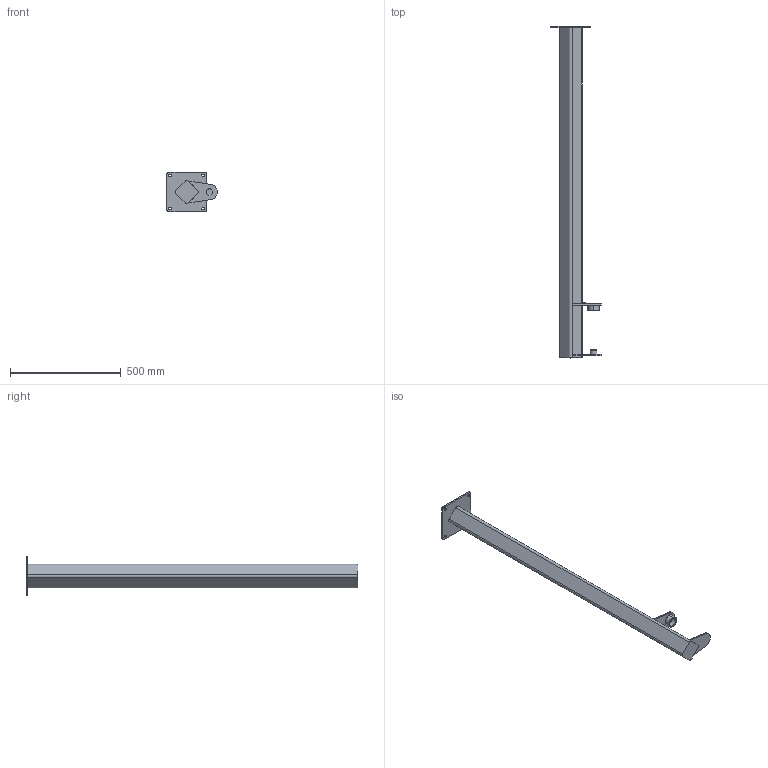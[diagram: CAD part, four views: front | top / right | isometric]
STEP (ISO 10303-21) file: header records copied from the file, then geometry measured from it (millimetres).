
FILE_DESCRIPTION((''),'2;1');
FILE_NAME('PTZ_1500_100-6315','2019-08-23T13:54:26',('Tomas Bellgran'),(''),'CREO PARAMETRIC BY PTC INC, 2018260','CREO PARAMETRIC BY PTC INC, 2018260','');
FILE_SCHEMA(('AUTOMOTIVE_DESIGN { 1 0 10303 214 1 1 1 1 }'));
Length unit declared in the file: millimetre
Products named in the file (1): PTZ_1500_100-6315
Bounding box: 228.42 x 1500 x 180 mm (x, y, z)
Volume: 9811926.1 mm3; surface area: 564710.7 mm2
Topology: 1 solids, 1 shells, 65 faces, 172 edges, 114 vertices
Faces by surface type: cylinder 33, plane 30, cone 2
Entity records: 2256 total; most frequent: DIRECTION 385, CARTESIAN_POINT 362, ORIENTED_EDGE 344, EDGE_CURVE 172, AXIS2_PLACEMENT_3D 140, VERTEX_POINT 114, VECTOR 102, LINE 102
